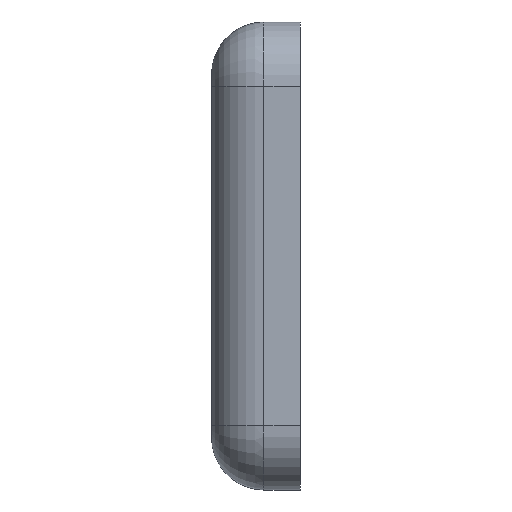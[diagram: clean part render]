
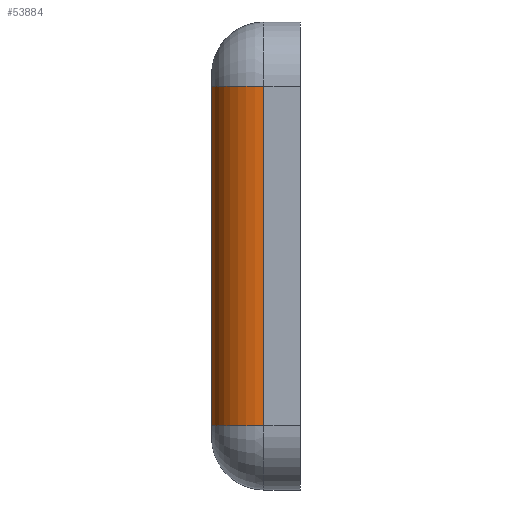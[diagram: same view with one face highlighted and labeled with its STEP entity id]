
A CAD part, left-side view. The second image highlights one B-rep face of the part: STEP entity #53884.
In plain terms, the highlighted cylindrical face has radius 25.4 mm (diameter 50.8 mm), a partial arc.
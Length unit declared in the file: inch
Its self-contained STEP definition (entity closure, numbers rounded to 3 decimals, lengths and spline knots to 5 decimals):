
#1218 = ORIENTED_EDGE ( 'NONE', *, *, #34192, .F. ) ;
#3277 = CARTESIAN_POINT ( 'NONE',  ( -4.47543, 1.7, 0. ) ) ;
#4076 = CYLINDRICAL_SURFACE ( 'NONE', #10310, 1. ) ;
#4437 = DIRECTION ( 'NONE',  ( -1., 0., 0. ) ) ;
#5796 = VERTEX_POINT ( 'NONE', #63676 ) ;
#8452 = EDGE_CURVE ( 'NONE', #5796, #67779, #38974, .T. ) ;
#10083 = AXIS2_PLACEMENT_3D ( 'NONE', #22625, #29172, #12743 ) ;
#10171 = EDGE_LOOP ( 'NONE', ( #22841, #1218, #13044, #33489 ) ) ;
#10228 = CARTESIAN_POINT ( 'NONE',  ( -4.47543, 1.7, -3.25 ) ) ;
#10310 = AXIS2_PLACEMENT_3D ( 'NONE', #26326, #16436, #4437 ) ;
#12743 = DIRECTION ( 'NONE',  ( -1., 0., 0. ) ) ;
#13044 = ORIENTED_EDGE ( 'NONE', *, *, #32662, .F. ) ;
#16436 = DIRECTION ( 'NONE',  ( 0., 0., -1. ) ) ;
#19755 = AXIS2_PLACEMENT_3D ( 'NONE', #48669, #70885, #43205 ) ;
#22125 = CIRCLE ( 'NONE', #19755, 1. ) ;
#22625 = CARTESIAN_POINT ( 'NONE',  ( -4.47543, 0.7, -3.25 ) ) ;
#22841 = ORIENTED_EDGE ( 'NONE', *, *, #59009, .F. ) ;
#26326 = CARTESIAN_POINT ( 'NONE',  ( -4.47543, 0.7, 3.25 ) ) ;
#27398 = FACE_OUTER_BOUND ( 'NONE', #10171, .T. ) ;
#28349 = CARTESIAN_POINT ( 'NONE',  ( -4.47543, 1.7, 3.25 ) ) ;
#29172 = DIRECTION ( 'NONE',  ( 0., 0., -1. ) ) ;
#32662 = EDGE_CURVE ( 'NONE', #67779, #43738, #34435, .T. ) ;
#33489 = ORIENTED_EDGE ( 'NONE', *, *, #8452, .F. ) ;
#34192 = EDGE_CURVE ( 'NONE', #43738, #65698, #52521, .T. ) ;
#34435 = CIRCLE ( 'NONE', #10083, 1. ) ;
#37264 = DIRECTION ( 'NONE',  ( 0., 0., -1. ) ) ;
#38974 = LINE ( 'NONE', #67016, #43911 ) ;
#43205 = DIRECTION ( 'NONE',  ( 1., 0., 0. ) ) ;
#43738 = VERTEX_POINT ( 'NONE', #10228 ) ;
#43911 = VECTOR ( 'NONE', #37264, 39.37008 ) ;
#48669 = CARTESIAN_POINT ( 'NONE',  ( -4.47543, 0.7, 3.25 ) ) ;
#51693 = CARTESIAN_POINT ( 'NONE',  ( -5.47543, 0.7, -3.25 ) ) ;
#52521 = LINE ( 'NONE', #3277, #68837 ) ;
#53884 = ADVANCED_FACE ( 'NONE', ( #27398 ), #4076, .T. ) ;
#58350 = DIRECTION ( 'NONE',  ( 0., 0., 1. ) ) ;
#59009 = EDGE_CURVE ( 'NONE', #65698, #5796, #22125, .T. ) ;
#63676 = CARTESIAN_POINT ( 'NONE',  ( -5.47543, 0.7, 3.25 ) ) ;
#65698 = VERTEX_POINT ( 'NONE', #28349 ) ;
#67016 = CARTESIAN_POINT ( 'NONE',  ( -5.47543, 0.7, 3.25 ) ) ;
#67779 = VERTEX_POINT ( 'NONE', #51693 ) ;
#68837 = VECTOR ( 'NONE', #58350, 39.37008 ) ;
#70885 = DIRECTION ( 'NONE',  ( 0., 0., 1. ) ) ;
